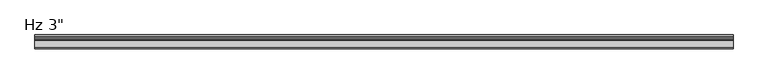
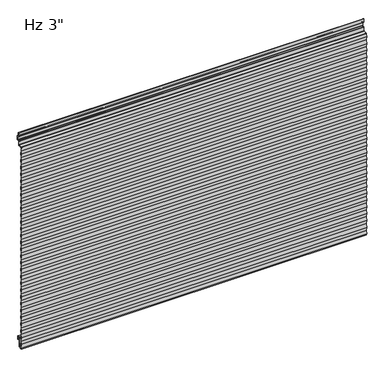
"""IFC4 building model written with IfcOpenShell, lengths in millimetres: plate geometry."""

from ifc_helpers import new_model, si_unit, point, frame, origin, place, context, project, spatial, polyline, circle_curve, ellipse_curve, trimmed, source, transform, mapped, element, save
from ifc_brep_helpers import plane_surface, cylinder_surface, revolved_surface, extruded_surface, advanced_brep


def plate_d8378e91(model_context):
    return source(origin(), model_context, "Body", "AdvancedBrep", [
        advanced_brep(
        [(-730.0, -50.8, -23.2314549), (-730.0, -52.3875, -23.2314549), (-730.0, -52.3875, -11.9205174), (-730.0, -60.325, -11.9205174), (-730.0, -60.325, -50.1038221), (-730.0, -62.581625, -52.4818086), (-730.0, -76.7543553, -53.22457), (-730.0, -77.4509395, -48.8709186), (-730.0, -75.0125395, -33.6309186), (-730.0, -77.4509395, -18.3909186), (-730.0, -75.0125395, -3.1509186), (-730.0, -77.4509395, 12.0890814), (-730.0, -75.0125395, 27.3290814), (-730.0, -77.4509395, 42.5690814), (-730.0, -75.0125395, 57.8090814), (-730.0, -77.4509395, 73.0490814), (-730.0, -75.0125395, 88.2890814), (-730.0, -77.4509395, 103.5290814), (-730.0, -75.0125395, 118.7690814), (-730.0, -77.4509395, 134.0090814), (-730.0, -75.0125395, 149.2490814), (-730.0, -77.4509395, 164.4890814), (-730.0, -75.0125395, 179.7290814), (-730.0, -77.4509395, 194.9690814), (-730.0, -75.0125395, 210.2090814), (-730.0, -77.4509395, 225.4490814), (-730.0, -75.0125395, 240.6890814), (-730.0, -77.4509395, 255.9290814), (-730.0, -75.0125395, 271.1690814), (-730.0, -77.4509395, 286.4090814), (-730.0, -75.0125395, 301.6490814), (-730.0, -77.4509395, 316.8890814), (-730.0, -75.0125395, 332.1290814), (-730.0, -77.4509395, 347.3690814), (-730.0, -75.0125395, 362.6090814), (-730.0, -77.4509395, 377.8490814), (-730.0, -75.0125395, 393.0890814), (-730.0, -77.4509395, 408.3290814), (-730.0, -75.0125395, 423.5690814), (-730.0, -77.4509395, 438.8090814), (-730.0, -75.0125395, 454.0490814), (-730.0, -77.4509395, 469.2890814), (-730.0, -75.0125395, 484.5290814), (-730.0, -77.4509395, 499.7690814), (-730.0, -75.0125395, 515.0090814), (-730.0, -77.4509395, 530.2490814), (-730.0, -75.0125395, 545.4890814), (-730.0, -77.4509395, 560.7290814), (-730.0, -75.0125395, 575.9690814), (-730.0, -77.4509395, 591.2090814), (-730.0, -75.0125395, 606.4490814), (-730.0, -77.4509395, 621.6890814), (-730.0, -75.0125395, 636.9290814), (-730.0, -77.4509395, 652.1690814), (-730.0, -75.0125395, 667.4090814), (-730.0, -77.4509395, 682.6490814), (-730.0, -75.0125395, 697.8890814), (-730.0, -77.4509395, 713.1290814), (-730.0, -75.0125395, 728.3690814), (-730.0, -77.4509395, 743.6090814), (-730.0, -75.0125395, 758.8490814), (-730.0, -77.4509395, 774.0890814), (-730.0, -75.0125395, 789.3290814), (-730.0, -77.4509395, 804.5690814), (-730.0, -75.0125395, 819.8090814), (-730.0, -77.4185287, 834.8465139), (-730.0, -75.4278537, 847.2882328), (-730.0, -73.943375, 848.6227473), (-730.0, -60.2419167, 849.3408103), (-730.0, -58.7375, 850.9261347), (-730.0, -58.7375, 865.0824411), (-730.0, -56.480875, 867.4604276), (-730.0, -50.7169167, 867.7625039), (-730.0, -49.2125, 869.3478283), (-730.0, -49.2125, 884.2232326), (-730.0, -50.8, 885.8107326), (-730.0, -54.9671875, 885.8107326), (-730.0, -57.3484375, 888.1919826), (-730.0, -57.3484375, 902.6836032), (-730.0, -55.5546875, 902.6836032), (-730.0, -55.5546875, 892.9544826), (-730.0, -56.3484375, 892.9544826), (-730.0, -56.3484375, 888.1919826), (-730.0, -54.9671875, 886.8107326), (-730.0, -50.8, 886.8107326), (-730.0, -48.2125, 884.2232326), (-730.0, -48.2125, 869.3478283), (-730.0, -50.6645807, 866.7638744), (-730.0, -56.428539, 866.4617981), (-730.0, -57.7375, 865.0824411), (-730.0, -57.7375, 850.9261347), (-730.0, -60.1895807, 848.3421807), (-730.0, -73.891039, 847.6241177), (-730.0, -74.440413, 847.1302423), (-730.0, -76.4058096, 834.8465139), (-730.0, -73.9998204, 819.8090814), (-730.0, -76.4382204, 804.5690814), (-730.0, -73.9998204, 789.3290814), (-730.0, -76.4382204, 774.0890814), (-730.0, -73.9998204, 758.8490814), (-730.0, -76.4382204, 743.6090814), (-730.0, -73.9998204, 728.3690814), (-730.0, -76.4382204, 713.1290814), (-730.0, -73.9998204, 697.8890814), (-730.0, -76.4382204, 682.6490814), (-730.0, -73.9998204, 667.4090814), (-730.0, -76.4382204, 652.1690814), (-730.0, -73.9998204, 636.9290814), (-730.0, -76.4382204, 621.6890814), (-730.0, -73.9998204, 606.4490814), (-730.0, -76.4382204, 591.2090814), (-730.0, -73.9998204, 575.9690814), (-730.0, -76.4382204, 560.7290814), (-730.0, -73.9998204, 545.4890814), (-730.0, -76.4382204, 530.2490814), (-730.0, -73.9998204, 515.0090814), (-730.0, -76.4382204, 499.7690814), (-730.0, -73.9998204, 484.5290814), (-730.0, -76.4382204, 469.2890814), (-730.0, -73.9998204, 454.0490814), (-730.0, -76.4382204, 438.8090814), (-730.0, -73.9998204, 423.5690814), (-730.0, -76.4382204, 408.3290814), (-730.0, -73.9998204, 393.0890814), (-730.0, -76.4382204, 377.8490814), (-730.0, -73.9998204, 362.6090814), (-730.0, -76.4382204, 347.3690814), (-730.0, -73.9998204, 332.1290814), (-730.0, -76.4382204, 316.8890814), (-730.0, -73.9998204, 301.6490814), (-730.0, -76.4382204, 286.4090814), (-730.0, -73.9998204, 271.1690814), (-730.0, -76.4382204, 255.9290814), (-730.0, -73.9998204, 240.6890814), (-730.0, -76.4382204, 225.4490814), (-730.0, -73.9998204, 210.2090814), (-730.0, -76.4382204, 194.9690814), (-730.0, -73.9998204, 179.7290814), (-730.0, -76.4382204, 164.4890814), (-730.0, -73.9998204, 149.2490814), (-730.0, -76.4382204, 134.0090814), (-730.0, -73.9998204, 118.7690814), (-730.0, -76.4382204, 103.5290814), (-730.0, -73.9998204, 88.2890814), (-730.0, -76.4382204, 73.0490814), (-730.0, -73.9998204, 57.8090814), (-730.0, -76.4382204, 42.5690814), (-730.0, -73.9998204, 27.3290814), (-730.0, -76.4382204, 12.0890814), (-730.0, -73.9998204, -3.1509186), (-730.0, -76.4382204, -18.3909186), (-730.0, -73.9998204, -33.6309186), (-730.0, -76.4382204, -48.8709186), (-730.0, -75.9089447, -52.1788915), (-730.0, -62.633961, -51.4831791), (-730.0, -61.325, -50.1038221), (-730.0, -61.325, -11.9205174), (-730.0, -51.3875, -11.9205174), (-730.0, -51.59375, -13.5080174), (-730.0, -50.8, -13.5080174), (730.0, -50.8, -23.2314549), (730.0, -50.8, -13.5080174), (730.0, -51.59375, -13.5080174), (730.0, -51.3875, -11.9205174), (730.0, -61.325, -11.9205174), (730.0, -61.325, -50.1038221), (730.0, -62.633961, -51.4831791), (730.0, -75.9089447, -52.1788915), (730.0, -76.4382204, -48.8709186), (730.0, -73.9998204, -33.6309186), (730.0, -76.4382204, -18.3909186), (730.0, -73.9998204, -3.1509186), (730.0, -76.4382204, 12.0890814), (730.0, -73.9998204, 27.3290814), (730.0, -76.4382204, 42.5690814), (730.0, -73.9998204, 57.8090814), (730.0, -76.4382204, 73.0490814), (730.0, -73.9998204, 88.2890814), (730.0, -76.4382204, 103.5290814), (730.0, -73.9998204, 118.7690814), (730.0, -76.4382204, 134.0090814), (730.0, -73.9998204, 149.2490814), (730.0, -76.4382204, 164.4890814), (730.0, -73.9998204, 179.7290814), (730.0, -76.4382204, 194.9690814), (730.0, -73.9998204, 210.2090814), (730.0, -76.4382204, 225.4490814), (730.0, -73.9998204, 240.6890814), (730.0, -76.4382204, 255.9290814), (730.0, -73.9998204, 271.1690814), (730.0, -76.4382204, 286.4090814), (730.0, -73.9998204, 301.6490814), (730.0, -76.4382204, 316.8890814), (730.0, -73.9998204, 332.1290814), (730.0, -76.4382204, 347.3690814), (730.0, -73.9998204, 362.6090814), (730.0, -76.4382204, 377.8490814), (730.0, -73.9998204, 393.0890814), (730.0, -76.4382204, 408.3290814), (730.0, -73.9998204, 423.5690814), (730.0, -76.4382204, 438.8090814), (730.0, -73.9998204, 454.0490814), (730.0, -76.4382204, 469.2890814), (730.0, -73.9998204, 484.5290814), (730.0, -76.4382204, 499.7690814), (730.0, -73.9998204, 515.0090814), (730.0, -76.4382204, 530.2490814), (730.0, -73.9998204, 545.4890814), (730.0, -76.4382204, 560.7290814), (730.0, -73.9998204, 575.9690814), (730.0, -76.4382204, 591.2090814), (730.0, -73.9998204, 606.4490814), (730.0, -76.4382204, 621.6890814), (730.0, -73.9998204, 636.9290814), (730.0, -76.4382204, 652.1690814), (730.0, -73.9998204, 667.4090814), (730.0, -76.4382204, 682.6490814), (730.0, -73.9998204, 697.8890814), (730.0, -76.4382204, 713.1290814), (730.0, -73.9998204, 728.3690814), (730.0, -76.4382204, 743.6090814), (730.0, -73.9998204, 758.8490814), (730.0, -76.4382204, 774.0890814), (730.0, -73.9998204, 789.3290814), (730.0, -76.4382204, 804.5690814), (730.0, -73.9998204, 819.8090814), (730.0, -76.4058096, 834.8465139), (730.0, -74.440413, 847.1302423), (730.0, -73.891039, 847.6241177), (730.0, -60.1895807, 848.3421807), (730.0, -57.7375, 850.9261347), (730.0, -57.7375, 865.0824411), (730.0, -56.428539, 866.4617981), (730.0, -50.6645807, 866.7638744), (730.0, -48.2125, 869.3478283), (730.0, -48.2125, 884.2232326), (730.0, -50.8, 886.8107326), (730.0, -54.9671875, 886.8107326), (730.0, -56.3484375, 888.1919826), (730.0, -56.3484375, 892.9544826), (730.0, -55.5546875, 892.9544826), (730.0, -55.5546875, 902.6836032), (730.0, -57.3484375, 902.6836032), (730.0, -57.3484375, 888.1919826), (730.0, -54.9671875, 885.8107326), (730.0, -50.8, 885.8107326), (730.0, -49.2125, 884.2232326), (730.0, -49.2125, 869.3478283), (730.0, -50.7169167, 867.7625039), (730.0, -56.480875, 867.4604276), (730.0, -58.7375, 865.0824411), (730.0, -58.7375, 850.9261347), (730.0, -60.2419167, 849.3408103), (730.0, -73.943375, 848.6227473), (730.0, -75.4278537, 847.2882328), (730.0, -77.4185287, 834.8465139), (730.0, -75.0125395, 819.8090814), (730.0, -77.4509395, 804.5690814), (730.0, -75.0125395, 789.3290814), (730.0, -77.4509395, 774.0890814), (730.0, -75.0125395, 758.8490814), (730.0, -77.4509395, 743.6090814), (730.0, -75.0125395, 728.3690814), (730.0, -77.4509395, 713.1290814), (730.0, -75.0125395, 697.8890814), (730.0, -77.4509395, 682.6490814), (730.0, -75.0125395, 667.4090814), (730.0, -77.4509395, 652.1690814), (730.0, -75.0125395, 636.9290814), (730.0, -77.4509395, 621.6890814), (730.0, -75.0125395, 606.4490814), (730.0, -77.4509395, 591.2090814), (730.0, -75.0125395, 575.9690814), (730.0, -77.4509395, 560.7290814), (730.0, -75.0125395, 545.4890814), (730.0, -77.4509395, 530.2490814), (730.0, -75.0125395, 515.0090814), (730.0, -77.4509395, 499.7690814), (730.0, -75.0125395, 484.5290814), (730.0, -77.4509395, 469.2890814), (730.0, -75.0125395, 454.0490814), (730.0, -77.4509395, 438.8090814), (730.0, -75.0125395, 423.5690814), (730.0, -77.4509395, 408.3290814), (730.0, -75.0125395, 393.0890814), (730.0, -77.4509395, 377.8490814), (730.0, -75.0125395, 362.6090814), (730.0, -77.4509395, 347.3690814), (730.0, -75.0125395, 332.1290814), (730.0, -77.4509395, 316.8890814), (730.0, -75.0125395, 301.6490814), (730.0, -77.4509395, 286.4090814), (730.0, -75.0125395, 271.1690814), (730.0, -77.4509395, 255.9290814), (730.0, -75.0125395, 240.6890814), (730.0, -77.4509395, 225.4490814), (730.0, -75.0125395, 210.2090814), (730.0, -77.4509395, 194.9690814), (730.0, -75.0125395, 179.7290814), (730.0, -77.4509395, 164.4890814), (730.0, -75.0125395, 149.2490814), (730.0, -77.4509395, 134.0090814), (730.0, -75.0125395, 118.7690814), (730.0, -77.4509395, 103.5290814), (730.0, -75.0125395, 88.2890814), (730.0, -77.4509395, 73.0490814), (730.0, -75.0125395, 57.8090814), (730.0, -77.4509395, 42.5690814), (730.0, -75.0125395, 27.3290814), (730.0, -77.4509395, 12.0890814), (730.0, -75.0125395, -3.1509186), (730.0, -77.4509395, -18.3909186), (730.0, -75.0125395, -33.6309186), (730.0, -77.4509395, -48.8709186), (730.0, -76.7543553, -53.22457), (730.0, -62.581625, -52.4818086), (730.0, -60.325, -50.1038221), (730.0, -60.325, -11.9205174), (730.0, -52.3875, -11.9205174), (730.0, -52.3875, -23.2314549)],
        [
            (0, 1, circle_curve(frame((-730.0, -51.59375, -23.2314549), z_axis=(-1.0, 0.0, 0.0), x_axis=(0.0, 0.0, 1.0)), 0.79375)),
            (1, 2),
            (2, 3, circle_curve(frame((-730.0, -56.35625, -11.9205174), z_axis=(1.0, 0.0, 0.0), x_axis=(0.0, 0.0, 1.0)), 3.96875)),
            (3, 4),
            (4, 5, circle_curve(frame((-730.0, -62.70625, -50.1038221), z_axis=(-1.0, 0.0, 0.0), x_axis=(0.0, 0.0, 1.0)), 2.38125)),
            (5, 6),
            (6, 7),
            (7, 8),
            (8, 9),
            (9, 10),
            (10, 11),
            (11, 12),
            (12, 13),
            (13, 14),
            (14, 15),
            (15, 16),
            (16, 17),
            (17, 18),
            (18, 19),
            (19, 20),
            (20, 21),
            (21, 22),
            (22, 23),
            (23, 24),
            (24, 25),
            (25, 26),
            (26, 27),
            (27, 28),
            (28, 29),
            (29, 30),
            (30, 31),
            (31, 32),
            (32, 33),
            (33, 34),
            (34, 35),
            (35, 36),
            (36, 37),
            (37, 38),
            (38, 39),
            (39, 40),
            (40, 41),
            (41, 42),
            (42, 43),
            (43, 44),
            (44, 45),
            (45, 46),
            (46, 47),
            (47, 48),
            (48, 49),
            (49, 50),
            (50, 51),
            (51, 52),
            (52, 53),
            (53, 54),
            (54, 55),
            (55, 56),
            (56, 57),
            (57, 58),
            (58, 59),
            (59, 60),
            (60, 61),
            (61, 62),
            (62, 63),
            (63, 64),
            (64, 65),
            (65, 66),
            (66, 67, circle_curve(frame((-730.0, -73.8602917, 847.0374229), z_axis=(-1.0, 0.0, 0.0), x_axis=(0.0, 0.0, 1.0)), 1.5875)),
            (67, 68),
            (68, 69, circle_curve(frame((-730.0, -60.325, 850.9261347), z_axis=(1.0, 0.0, 0.0), x_axis=(0.0, 0.0, 1.0)), 1.5875)),
            (69, 70),
            (70, 71, circle_curve(frame((-730.0, -56.35625, 865.0824411), z_axis=(-1.0, 0.0, 0.0), x_axis=(0.0, 0.0, 1.0)), 2.38125)),
            (71, 72),
            (72, 73, circle_curve(frame((-730.0, -50.8, 869.3478283), z_axis=(1.0, 0.0, 0.0), x_axis=(0.0, 0.0, 1.0)), 1.5875)),
            (73, 74),
            (74, 75, circle_curve(frame((-730.0, -50.8, 884.2232326), z_axis=(1.0, 0.0, 0.0), x_axis=(0.0, 0.0, 1.0)), 1.5875)),
            (75, 76),
            (76, 77, circle_curve(frame((-730.0, -54.9671875, 888.1919826), z_axis=(-1.0, 0.0, 0.0), x_axis=(0.0, 0.0, 1.0)), 2.38125)),
            (77, 78),
            (78, 79, ellipse_curve(frame((-730.0, -56.4515625, 902.6836032), z_axis=(-1.0, 0.0, 0.0), x_axis=(0.0, 1.0, 0.0)), 0.896875, 0.7852275)),
            (79, 80),
            (80, 81),
            (81, 82),
            (82, 83, circle_curve(frame((-730.0, -54.9671875, 888.1919826), z_axis=(1.0, 0.0, 0.0), x_axis=(0.0, 0.0, 1.0)), 1.38125)),
            (83, 84),
            (84, 85, circle_curve(frame((-730.0, -50.8, 884.2232326), z_axis=(-1.0, 0.0, 0.0), x_axis=(0.0, 0.0, 1.0)), 2.5875)),
            (85, 86),
            (86, 87, circle_curve(frame((-730.0, -50.8, 869.3478283), z_axis=(-1.0, 0.0, 0.0), x_axis=(0.0, 0.0, 1.0)), 2.5875)),
            (87, 88),
            (88, 89, circle_curve(frame((-730.0, -56.35625, 865.0824411), z_axis=(1.0, 0.0, 0.0), x_axis=(0.0, 0.0, 1.0)), 1.38125)),
            (89, 90),
            (90, 91, circle_curve(frame((-730.0, -60.325, 850.9261347), z_axis=(-1.0, 0.0, 0.0), x_axis=(0.0, 0.0, 1.0)), 2.5875)),
            (91, 92),
            (92, 93, circle_curve(frame((-730.0, -73.8602917, 847.0374229), z_axis=(1.0, 0.0, 0.0), x_axis=(0.0, 0.0, 1.0)), 0.5875)),
            (93, 94),
            (94, 95),
            (95, 96),
            (96, 97),
            (97, 98),
            (98, 99),
            (99, 100),
            (100, 101),
            (101, 102),
            (102, 103),
            (103, 104),
            (104, 105),
            (105, 106),
            (106, 107),
            (107, 108),
            (108, 109),
            (109, 110),
            (110, 111),
            (111, 112),
            (112, 113),
            (113, 114),
            (114, 115),
            (115, 116),
            (116, 117),
            (117, 118),
            (118, 119),
            (119, 120),
            (120, 121),
            (121, 122),
            (122, 123),
            (123, 124),
            (124, 125),
            (125, 126),
            (126, 127),
            (127, 128),
            (128, 129),
            (129, 130),
            (130, 131),
            (131, 132),
            (132, 133),
            (133, 134),
            (134, 135),
            (135, 136),
            (136, 137),
            (137, 138),
            (138, 139),
            (139, 140),
            (140, 141),
            (141, 142),
            (142, 143),
            (143, 144),
            (144, 145),
            (145, 146),
            (146, 147),
            (147, 148),
            (148, 149),
            (149, 150),
            (150, 151),
            (151, 152),
            (152, 153),
            (153, 154),
            (154, 155, circle_curve(frame((-730.0, -62.70625, -50.1038221), z_axis=(1.0, 0.0, 0.0), x_axis=(0.0, 0.0, 1.0)), 1.38125)),
            (155, 156),
            (156, 157, circle_curve(frame((-730.0, -56.35625, -11.9205174), z_axis=(-1.0, 0.0, 0.0), x_axis=(0.0, 0.0, 1.0)), 4.96875)),
            (157, 158),
            (158, 159),
            (159, 0),
            (160, 161),
            (161, 162),
            (162, 163),
            (163, 164, circle_curve(frame((730.0, -56.35625, -11.9205174), z_axis=(1.0, 0.0, 0.0), x_axis=(0.0, 0.0, 1.0)), 4.96875)),
            (164, 165),
            (165, 166, circle_curve(frame((730.0, -62.70625, -50.1038221), z_axis=(-1.0, 0.0, 0.0), x_axis=(0.0, 0.0, 1.0)), 1.38125)),
            (166, 167),
            (167, 168),
            (168, 169),
            (169, 170),
            (170, 171),
            (171, 172),
            (172, 173),
            (173, 174),
            (174, 175),
            (175, 176),
            (176, 177),
            (177, 178),
            (178, 179),
            (179, 180),
            (180, 181),
            (181, 182),
            (182, 183),
            (183, 184),
            (184, 185),
            (185, 186),
            (186, 187),
            (187, 188),
            (188, 189),
            (189, 190),
            (190, 191),
            (191, 192),
            (192, 193),
            (193, 194),
            (194, 195),
            (195, 196),
            (196, 197),
            (197, 198),
            (198, 199),
            (199, 200),
            (200, 201),
            (201, 202),
            (202, 203),
            (203, 204),
            (204, 205),
            (205, 206),
            (206, 207),
            (207, 208),
            (208, 209),
            (209, 210),
            (210, 211),
            (211, 212),
            (212, 213),
            (213, 214),
            (214, 215),
            (215, 216),
            (216, 217),
            (217, 218),
            (218, 219),
            (219, 220),
            (220, 221),
            (221, 222),
            (222, 223),
            (223, 224),
            (224, 225),
            (225, 226),
            (226, 227),
            (227, 228, circle_curve(frame((730.0, -73.8602917, 847.0374229), z_axis=(-1.0, 0.0, 0.0), x_axis=(0.0, 0.0, 1.0)), 0.5875)),
            (228, 229),
            (229, 230, circle_curve(frame((730.0, -60.325, 850.9261347), z_axis=(1.0, 0.0, 0.0), x_axis=(0.0, 0.0, 1.0)), 2.5875)),
            (230, 231),
            (231, 232, circle_curve(frame((730.0, -56.35625, 865.0824411), z_axis=(-1.0, 0.0, 0.0), x_axis=(0.0, 0.0, 1.0)), 1.38125)),
            (232, 233),
            (233, 234, circle_curve(frame((730.0, -50.8, 869.3478283), z_axis=(1.0, 0.0, 0.0), x_axis=(0.0, 0.0, 1.0)), 2.5875)),
            (234, 235),
            (235, 236, circle_curve(frame((730.0, -50.8, 884.2232326), z_axis=(1.0, 0.0, 0.0), x_axis=(0.0, 0.0, 1.0)), 2.5875)),
            (236, 237),
            (237, 238, circle_curve(frame((730.0, -54.9671875, 888.1919826), z_axis=(-1.0, 0.0, 0.0), x_axis=(0.0, 0.0, 1.0)), 1.38125)),
            (238, 239),
            (239, 240),
            (240, 241),
            (241, 242, ellipse_curve(frame((730.0, -56.4515625, 902.6836032), z_axis=(1.0, 0.0, 0.0), x_axis=(0.0, 1.0, 0.0)), 0.896875, 0.7852275)),
            (242, 243),
            (243, 244, circle_curve(frame((730.0, -54.9671875, 888.1919826), z_axis=(1.0, 0.0, 0.0), x_axis=(0.0, 0.0, 1.0)), 2.38125)),
            (244, 245),
            (245, 246, circle_curve(frame((730.0, -50.8, 884.2232326), z_axis=(-1.0, 0.0, 0.0), x_axis=(0.0, 0.0, 1.0)), 1.5875)),
            (246, 247),
            (247, 248, circle_curve(frame((730.0, -50.8, 869.3478283), z_axis=(-1.0, 0.0, 0.0), x_axis=(0.0, 0.0, 1.0)), 1.5875)),
            (248, 249),
            (249, 250, circle_curve(frame((730.0, -56.35625, 865.0824411), z_axis=(1.0, 0.0, 0.0), x_axis=(0.0, 0.0, 1.0)), 2.38125)),
            (250, 251),
            (251, 252, circle_curve(frame((730.0, -60.325, 850.9261347), z_axis=(-1.0, 0.0, 0.0), x_axis=(0.0, 0.0, 1.0)), 1.5875)),
            (252, 253),
            (253, 254, circle_curve(frame((730.0, -73.8602917, 847.0374229), z_axis=(1.0, 0.0, 0.0), x_axis=(0.0, 0.0, 1.0)), 1.5875)),
            (254, 255),
            (255, 256),
            (256, 257),
            (257, 258),
            (258, 259),
            (259, 260),
            (260, 261),
            (261, 262),
            (262, 263),
            (263, 264),
            (264, 265),
            (265, 266),
            (266, 267),
            (267, 268),
            (268, 269),
            (269, 270),
            (270, 271),
            (271, 272),
            (272, 273),
            (273, 274),
            (274, 275),
            (275, 276),
            (276, 277),
            (277, 278),
            (278, 279),
            (279, 280),
            (280, 281),
            (281, 282),
            (282, 283),
            (283, 284),
            (284, 285),
            (285, 286),
            (286, 287),
            (287, 288),
            (288, 289),
            (289, 290),
            (290, 291),
            (291, 292),
            (292, 293),
            (293, 294),
            (294, 295),
            (295, 296),
            (296, 297),
            (297, 298),
            (298, 299),
            (299, 300),
            (300, 301),
            (301, 302),
            (302, 303),
            (303, 304),
            (304, 305),
            (305, 306),
            (306, 307),
            (307, 308),
            (308, 309),
            (309, 310),
            (310, 311),
            (311, 312),
            (312, 313),
            (313, 314),
            (314, 315),
            (315, 316, circle_curve(frame((730.0, -62.70625, -50.1038221), z_axis=(1.0, 0.0, 0.0), x_axis=(0.0, 0.0, 1.0)), 2.38125)),
            (316, 317),
            (317, 318, circle_curve(frame((730.0, -56.35625, -11.9205174), z_axis=(-1.0, 0.0, 0.0), x_axis=(0.0, 0.0, 1.0)), 3.96875)),
            (318, 319),
            (319, 160, circle_curve(frame((730.0, -51.59375, -23.2314549), z_axis=(1.0, 0.0, 0.0), x_axis=(0.0, 0.0, 1.0)), 0.79375)),
            (108, 212),
            (211, 109),
            (210, 110),
            (209, 111),
            (208, 112),
            (207, 113),
            (206, 114),
            (205, 115),
            (204, 116),
            (203, 117),
            (202, 118),
            (201, 119),
            (200, 120),
            (199, 121),
            (153, 167),
            (166, 154),
            (165, 155),
            (164, 156),
            (163, 157),
            (158, 162),
            (161, 159),
            (80, 240),
            (239, 81),
            (79, 241),
            (78, 242),
            (67, 253),
            (252, 68),
            (91, 229),
            (228, 92),
            (64, 256),
            (255, 65),
            (94, 226),
            (225, 95),
            (224, 96),
            (223, 97),
            (222, 98),
            (221, 99),
            (220, 100),
            (219, 101),
            (218, 102),
            (217, 103),
            (216, 104),
            (215, 105),
            (214, 106),
            (213, 107),
            (24, 296),
            (295, 25),
            (294, 26),
            (293, 27),
            (292, 28),
            (291, 29),
            (290, 30),
            (289, 31),
            (288, 32),
            (287, 33),
            (286, 34),
            (285, 35),
            (284, 36),
            (137, 183),
            (182, 138),
            (181, 139),
            (180, 140),
            (179, 141),
            (178, 142),
            (58, 262),
            (261, 59),
            (260, 60),
            (259, 61),
            (258, 62),
            (257, 63),
            (254, 66),
            (227, 93),
            (123, 197),
            (196, 124),
            (195, 125),
            (194, 126),
            (193, 127),
            (192, 128),
            (191, 129),
            (190, 130),
            (189, 131),
            (188, 132),
            (187, 133),
            (186, 134),
            (185, 135),
            (184, 136),
            (22, 298),
            (297, 23),
            (15, 305),
            (304, 16),
            (13, 307),
            (306, 14),
            (146, 174),
            (173, 147),
            (144, 176),
            (175, 145),
            (12, 308),
            (21, 299),
            (19, 301),
            (300, 20),
            (143, 177),
            (17, 303),
            (302, 18),
            (56, 264),
            (263, 57),
            (54, 266),
            (265, 55),
            (52, 268),
            (267, 53),
            (50, 270),
            (269, 51),
            (48, 272),
            (271, 49),
            (46, 274),
            (273, 47),
            (44, 276),
            (275, 45),
            (42, 278),
            (277, 43),
            (40, 280),
            (279, 41),
            (38, 282),
            (281, 39),
            (283, 37),
            (10, 310),
            (309, 11),
            (8, 312),
            (311, 9),
            (6, 314),
            (313, 7),
            (151, 169),
            (168, 152),
            (149, 171),
            (170, 150),
            (172, 148),
            (198, 122),
            (90, 230),
            (88, 232),
            (231, 89),
            (86, 234),
            (233, 87),
            (82, 238),
            (237, 83),
            (84, 236),
            (235, 85),
            (77, 243),
            (75, 245),
            (244, 76),
            (73, 247),
            (246, 74),
            (71, 249),
            (248, 72),
            (69, 251),
            (250, 70),
            (5, 315),
            (3, 317),
            (316, 4),
            (1, 319),
            (318, 2),
            (160, 0),
        ],
        [
            plane_surface(frame((-730.0, -76.2, 457.2), z_axis=(-1.0, 0.0, 0.0), x_axis=(0.0, -1.0, 0.0))),
            plane_surface(frame((730.0, -76.2, 457.2), z_axis=(1.0, 0.0, 0.0), x_axis=(0.0, -1.0, 0.0))),
            plane_surface(frame((-730.0, -73.9998204, 606.4490814), z_axis=(0.0, 0.9874406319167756, 0.15799050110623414), x_axis=(1.0, 0.0, 0.0))),
            plane_surface(frame((-730.0, -76.4382204, 591.2090814), z_axis=(0.0, 0.987440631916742, -0.15799050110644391), x_axis=(1.0, 0.0, 0.0))),
            plane_surface(frame((-730.0, -73.9998204, 575.9690814), z_axis=(0.0, 0.987440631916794, 0.1579905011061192), x_axis=(1.0, 0.0, 0.0))),
            plane_surface(frame((-730.0, -76.4382204, 560.7290814), z_axis=(0.0, 0.987440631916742, -0.15799050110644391), x_axis=(1.0, 0.0, 0.0))),
            plane_surface(frame((-730.0, -73.9998204, 545.4890814), z_axis=(0.0, 0.9874406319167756, 0.15799050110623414), x_axis=(1.0, 0.0, 0.0))),
            plane_surface(frame((-730.0, -76.4382204, 530.2490814), z_axis=(0.0, 0.9874406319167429, -0.15799050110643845), x_axis=(1.0, 0.0, 0.0))),
            plane_surface(frame((-730.0, -73.9998204, 515.0090814), z_axis=(0.0, 0.9874406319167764, 0.15799050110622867), x_axis=(1.0, 0.0, 0.0))),
            plane_surface(frame((-730.0, -76.4382204, 499.7690814), z_axis=(0.0, 0.9874406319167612, -0.1579905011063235), x_axis=(1.0, 0.0, 0.0))),
            plane_surface(frame((-730.0, -73.9998204, 484.5290814), z_axis=(0.0, 0.9874406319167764, 0.15799050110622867), x_axis=(1.0, 0.0, 0.0))),
            plane_surface(frame((-730.0, -76.4382204, 469.2890814), z_axis=(0.0, 0.987440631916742, -0.15799050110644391), x_axis=(1.0, 0.0, 0.0))),
            plane_surface(frame((-730.0, -73.9998204, 454.0490814), z_axis=(0.0, 0.9874406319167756, 0.15799050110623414), x_axis=(1.0, 0.0, 0.0))),
            plane_surface(frame((-730.0, -76.4382204, 438.8090814), z_axis=(0.0, 0.987440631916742, -0.15799050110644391), x_axis=(1.0, 0.0, 0.0))),
            plane_surface(frame((-730.0, -73.9998204, 423.5690814), z_axis=(0.0, 0.987440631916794, 0.1579905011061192), x_axis=(1.0, 0.0, 0.0))),
            plane_surface(frame((-730.0, -62.633961, -51.4831791), z_axis=(0.0, -0.052335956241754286, 0.9986295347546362), x_axis=(1.0, 0.0, 0.0))),
            revolved_surface(polyline([(730.0, -62.70625, -48.7225721), (-730.0, -62.70625, -48.7225721)]), (-730.0, -62.70625, -50.1038221), (1.0, 0.0, 0.0)),
            plane_surface(frame((-730.0, -61.325, -11.9205174), z_axis=(0.0, -1.0, 0.0), x_axis=(1.0, 0.0, 0.0))),
            cylinder_surface(frame((-730.0, -56.35625, -11.9205174), z_axis=(-1.0, 0.0, 0.0), x_axis=(0.0, 0.0, 1.0)), 4.96875),
            plane_surface(frame((-730.0, -50.8, -13.5080174), z_axis=(0.0, 0.0, 1.0), x_axis=(1.0, 0.0, 0.0))),
            plane_surface(frame((-730.0, -51.59375, -13.5080174), z_axis=(0.0, 0.9916655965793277, -0.12883844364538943), x_axis=(1.0, 0.0, 0.0))),
            plane_surface(frame((-730.0, -56.3484375, 892.9544826), z_axis=(0.0, 0.0, -1.0), x_axis=(1.0, 0.0, 0.0))),
            plane_surface(frame((-730.0, -55.5546875, 892.9544826), z_axis=(0.0, 1.0, 0.0), x_axis=(1.0, 0.0, 0.0))),
            extruded_surface(trimmed(ellipse_curve(frame((-730.0, -56.4515625, 902.6836032), z_axis=(1.0, 0.0, 0.0), x_axis=(0.0, 1.0, 0.0)), 0.896875, 0.7852275), [point((-730.0, -55.5546875, 902.6836032))], [point((-730.0, -57.3484375, 902.6836032))], True, "CARTESIAN"), (1460.0, 0.0, 0.0), 1460.0),
            plane_surface(frame((-730.0, -60.2419167, 849.3408103), z_axis=(0.0, -0.052335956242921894, 0.998629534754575), x_axis=(1.0, 0.0, 0.0))),
            plane_surface(frame((-730.0, -73.891039, 847.6241177), z_axis=(0.0, 0.05233595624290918, -0.9986295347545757), x_axis=(1.0, 0.0, 0.0))),
            plane_surface(frame((-730.0, -77.4185287, 834.8465139), z_axis=(0.0, -0.9874406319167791, -0.15799050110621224), x_axis=(1.0, 0.0, 0.0))),
            plane_surface(frame((-730.0, -73.9998204, 819.8090814), z_axis=(0.0, 0.9874406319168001, 0.15799050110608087), x_axis=(1.0, 0.0, 0.0))),
            plane_surface(frame((-730.0, -76.4382204, 804.5690814), z_axis=(0.0, 0.9874406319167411, -0.15799050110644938), x_axis=(1.0, 0.0, 0.0))),
            plane_surface(frame((-730.0, -73.9998204, 789.3290814), z_axis=(0.0, 0.987440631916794, 0.1579905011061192), x_axis=(1.0, 0.0, 0.0))),
            plane_surface(frame((-730.0, -76.4382204, 774.0890814), z_axis=(0.0, 0.987440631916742, -0.15799050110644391), x_axis=(1.0, 0.0, 0.0))),
            plane_surface(frame((-730.0, -73.9998204, 758.8490814), z_axis=(0.0, 0.987440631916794, 0.1579905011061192), x_axis=(1.0, 0.0, 0.0))),
            plane_surface(frame((-730.0, -76.4382204, 743.6090814), z_axis=(0.0, 0.987440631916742, -0.15799050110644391), x_axis=(1.0, 0.0, 0.0))),
            plane_surface(frame((-730.0, -73.9998204, 728.3690814), z_axis=(0.0, 0.987440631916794, 0.1579905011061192), x_axis=(1.0, 0.0, 0.0))),
            plane_surface(frame((-730.0, -76.4382204, 713.1290814), z_axis=(0.0, 0.987440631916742, -0.15799050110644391), x_axis=(1.0, 0.0, 0.0))),
            plane_surface(frame((-730.0, -73.9998204, 697.8890814), z_axis=(0.0, 0.9874406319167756, 0.15799050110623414), x_axis=(1.0, 0.0, 0.0))),
            plane_surface(frame((-730.0, -76.4382204, 682.6490814), z_axis=(0.0, 0.9874406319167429, -0.15799050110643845), x_axis=(1.0, 0.0, 0.0))),
            plane_surface(frame((-730.0, -73.9998204, 667.4090814), z_axis=(0.0, 0.9874406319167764, 0.15799050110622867), x_axis=(1.0, 0.0, 0.0))),
            plane_surface(frame((-730.0, -76.4382204, 652.1690814), z_axis=(0.0, 0.9874406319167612, -0.1579905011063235), x_axis=(1.0, 0.0, 0.0))),
            plane_surface(frame((-730.0, -73.9998204, 636.9290814), z_axis=(0.0, 0.9874406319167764, 0.15799050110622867), x_axis=(1.0, 0.0, 0.0))),
            plane_surface(frame((-730.0, -76.4382204, 621.6890814), z_axis=(0.0, 0.987440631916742, -0.15799050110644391), x_axis=(1.0, 0.0, 0.0))),
            plane_surface(frame((-730.0, -77.4509395, 225.4490814), z_axis=(0.0, -0.9874406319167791, -0.15799050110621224), x_axis=(1.0, 0.0, 0.0))),
            plane_surface(frame((-730.0, -75.0125395, 240.6890814), z_axis=(0.0, -0.9874406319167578, 0.15799050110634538), x_axis=(1.0, 0.0, 0.0))),
            plane_surface(frame((-730.0, -77.4509395, 255.9290814), z_axis=(0.0, -0.9874406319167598, -0.15799050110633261), x_axis=(1.0, 0.0, 0.0))),
            plane_surface(frame((-730.0, -75.0125395, 271.1690814), z_axis=(0.0, -0.9874406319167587, 0.15799050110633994), x_axis=(1.0, 0.0, 0.0))),
            plane_surface(frame((-730.0, -77.4509395, 286.4090814), z_axis=(0.0, -0.9874406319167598, -0.15799050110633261), x_axis=(1.0, 0.0, 0.0))),
            plane_surface(frame((-730.0, -75.0125395, 301.6490814), z_axis=(0.0, -0.9874406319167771, 0.157990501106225), x_axis=(1.0, 0.0, 0.0))),
            plane_surface(frame((-730.0, -77.4509395, 316.8890814), z_axis=(0.0, -0.9874406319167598, -0.15799050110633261), x_axis=(1.0, 0.0, 0.0))),
            plane_surface(frame((-730.0, -75.0125395, 332.1290814), z_axis=(0.0, -0.9874406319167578, 0.15799050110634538), x_axis=(1.0, 0.0, 0.0))),
            plane_surface(frame((-730.0, -77.4509395, 347.3690814), z_axis=(0.0, -0.9874406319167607, -0.15799050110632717), x_axis=(1.0, 0.0, 0.0))),
            plane_surface(frame((-730.0, -75.0125395, 362.6090814), z_axis=(0.0, -0.9874406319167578, 0.15799050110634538), x_axis=(1.0, 0.0, 0.0))),
            plane_surface(frame((-730.0, -77.4509395, 377.8490814), z_axis=(0.0, -0.9874406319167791, -0.15799050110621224), x_axis=(1.0, 0.0, 0.0))),
            plane_surface(frame((-730.0, -75.0125395, 393.0890814), z_axis=(0.0, -0.9874406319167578, 0.15799050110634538), x_axis=(1.0, 0.0, 0.0))),
            plane_surface(frame((-730.0, -76.4382204, 164.4890814), z_axis=(0.0, 0.987440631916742, -0.15799050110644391), x_axis=(1.0, 0.0, 0.0))),
            plane_surface(frame((-730.0, -73.9998204, 149.2490814), z_axis=(0.0, 0.9874406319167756, 0.15799050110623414), x_axis=(1.0, 0.0, 0.0))),
            plane_surface(frame((-730.0, -76.4382204, 134.0090814), z_axis=(0.0, 0.987440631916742, -0.15799050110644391), x_axis=(1.0, 0.0, 0.0))),
            plane_surface(frame((-730.0, -73.9998204, 118.7690814), z_axis=(0.0, 0.987440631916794, 0.1579905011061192), x_axis=(1.0, 0.0, 0.0))),
            plane_surface(frame((-730.0, -76.4382204, 103.5290814), z_axis=(0.0, 0.987440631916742, -0.15799050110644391), x_axis=(1.0, 0.0, 0.0))),
            plane_surface(frame((-730.0, -77.4509395, 743.6090814), z_axis=(0.0, -0.9874406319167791, -0.15799050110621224), x_axis=(1.0, 0.0, 0.0))),
            plane_surface(frame((-730.0, -75.0125395, 758.8490814), z_axis=(0.0, -0.9874406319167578, 0.15799050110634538), x_axis=(1.0, 0.0, 0.0))),
            plane_surface(frame((-730.0, -77.4509395, 774.0890814), z_axis=(0.0, -0.9874406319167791, -0.15799050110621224), x_axis=(1.0, 0.0, 0.0))),
            plane_surface(frame((-730.0, -75.0125395, 789.3290814), z_axis=(0.0, -0.9874406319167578, 0.15799050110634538), x_axis=(1.0, 0.0, 0.0))),
            plane_surface(frame((-730.0, -77.4509395, 804.5690814), z_axis=(0.0, -0.9874406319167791, -0.15799050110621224), x_axis=(1.0, 0.0, 0.0))),
            plane_surface(frame((-730.0, -75.0125395, 819.8090814), z_axis=(0.0, -0.9874406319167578, 0.15799050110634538), x_axis=(1.0, 0.0, 0.0))),
            plane_surface(frame((-730.0, -75.4278537, 847.2882328), z_axis=(0.0, -0.9874406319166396, 0.15799050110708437), x_axis=(1.0, 0.0, 0.0))),
            cylinder_surface(frame((-730.0, -73.8602917, 847.0374229), z_axis=(-1.0, 0.0, 0.0), x_axis=(0.0, 0.0, 1.0)), 1.5875),
            revolved_surface(polyline([(730.0, -73.8602917, 847.6249229), (-730.0, -73.8602917, 847.6249229)]), (-730.0, -73.8602917, 847.0374229), (1.0, 0.0, 0.0)),
            plane_surface(frame((-730.0, -76.4058096, 834.8465139), z_axis=(0.0, 0.9874406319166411, -0.15799050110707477), x_axis=(1.0, 0.0, 0.0))),
            plane_surface(frame((-730.0, -76.4382204, 377.8490814), z_axis=(0.0, 0.987440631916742, -0.15799050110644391), x_axis=(1.0, 0.0, 0.0))),
            plane_surface(frame((-730.0, -73.9998204, 362.6090814), z_axis=(0.0, 0.987440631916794, 0.1579905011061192), x_axis=(1.0, 0.0, 0.0))),
            plane_surface(frame((-730.0, -76.4382204, 347.3690814), z_axis=(0.0, 0.987440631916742, -0.15799050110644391), x_axis=(1.0, 0.0, 0.0))),
            plane_surface(frame((-730.0, -73.9998204, 332.1290814), z_axis=(0.0, 0.9874406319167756, 0.15799050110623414), x_axis=(1.0, 0.0, 0.0))),
            plane_surface(frame((-730.0, -76.4382204, 316.8890814), z_axis=(0.0, 0.9874406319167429, -0.15799050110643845), x_axis=(1.0, 0.0, 0.0))),
            plane_surface(frame((-730.0, -73.9998204, 301.6490814), z_axis=(0.0, 0.9874406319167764, 0.15799050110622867), x_axis=(1.0, 0.0, 0.0))),
            plane_surface(frame((-730.0, -76.4382204, 286.4090814), z_axis=(0.0, 0.9874406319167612, -0.1579905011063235), x_axis=(1.0, 0.0, 0.0))),
            plane_surface(frame((-730.0, -73.9998204, 271.1690814), z_axis=(0.0, 0.9874406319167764, 0.15799050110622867), x_axis=(1.0, 0.0, 0.0))),
            plane_surface(frame((-730.0, -76.4382204, 255.9290814), z_axis=(0.0, 0.987440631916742, -0.15799050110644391), x_axis=(1.0, 0.0, 0.0))),
            plane_surface(frame((-730.0, -73.9998204, 240.6890814), z_axis=(0.0, 0.9874406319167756, 0.15799050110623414), x_axis=(1.0, 0.0, 0.0))),
            plane_surface(frame((-730.0, -76.4382204, 225.4490814), z_axis=(0.0, 0.987440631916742, -0.15799050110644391), x_axis=(1.0, 0.0, 0.0))),
            plane_surface(frame((-730.0, -73.9998204, 210.2090814), z_axis=(0.0, 0.987440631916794, 0.1579905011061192), x_axis=(1.0, 0.0, 0.0))),
            plane_surface(frame((-730.0, -76.4382204, 194.9690814), z_axis=(0.0, 0.987440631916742, -0.15799050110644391), x_axis=(1.0, 0.0, 0.0))),
            plane_surface(frame((-730.0, -73.9998204, 179.7290814), z_axis=(0.0, 0.9874406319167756, 0.15799050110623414), x_axis=(1.0, 0.0, 0.0))),
            plane_surface(frame((-730.0, -77.4509395, 194.9690814), z_axis=(0.0, -0.9874406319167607, -0.15799050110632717), x_axis=(1.0, 0.0, 0.0))),
            plane_surface(frame((-730.0, -75.0125395, 210.2090814), z_axis=(0.0, -0.9874406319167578, 0.15799050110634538), x_axis=(1.0, 0.0, 0.0))),
            plane_surface(frame((-730.0, -75.0125395, 88.2890814), z_axis=(0.0, -0.9874406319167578, 0.15799050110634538), x_axis=(1.0, 0.0, 0.0))),
            plane_surface(frame((-730.0, -75.0125395, 57.8090814), z_axis=(0.0, -0.9874406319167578, 0.15799050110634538), x_axis=(1.0, 0.0, 0.0))),
            plane_surface(frame((-730.0, -77.4509395, 73.0490814), z_axis=(0.0, -0.9874406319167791, -0.15799050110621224), x_axis=(1.0, 0.0, 0.0))),
            plane_surface(frame((-730.0, -73.9998204, 27.3290814), z_axis=(0.0, 0.9874406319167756, 0.15799050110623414), x_axis=(1.0, 0.0, 0.0))),
            plane_surface(frame((-730.0, -73.9998204, 57.8090814), z_axis=(0.0, 0.987440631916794, 0.1579905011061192), x_axis=(1.0, 0.0, 0.0))),
            plane_surface(frame((-730.0, -76.4382204, 42.5690814), z_axis=(0.0, 0.987440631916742, -0.15799050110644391), x_axis=(1.0, 0.0, 0.0))),
            plane_surface(frame((-730.0, -77.4509395, 42.5690814), z_axis=(0.0, -0.9874406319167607, -0.15799050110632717), x_axis=(1.0, 0.0, 0.0))),
            plane_surface(frame((-730.0, -75.0125395, 179.7290814), z_axis=(0.0, -0.9874406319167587, 0.15799050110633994), x_axis=(1.0, 0.0, 0.0))),
            plane_surface(frame((-730.0, -75.0125395, 149.2490814), z_axis=(0.0, -0.9874406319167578, 0.15799050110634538), x_axis=(1.0, 0.0, 0.0))),
            plane_surface(frame((-730.0, -77.4509395, 164.4890814), z_axis=(0.0, -0.9874406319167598, -0.15799050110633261), x_axis=(1.0, 0.0, 0.0))),
            plane_surface(frame((-730.0, -76.4382204, 73.0490814), z_axis=(0.0, 0.987440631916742, -0.15799050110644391), x_axis=(1.0, 0.0, 0.0))),
            plane_surface(frame((-730.0, -75.0125395, 118.7690814), z_axis=(0.0, -0.9874406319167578, 0.15799050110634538), x_axis=(1.0, 0.0, 0.0))),
            plane_surface(frame((-730.0, -73.9998204, 88.2890814), z_axis=(0.0, 0.9874406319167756, 0.15799050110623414), x_axis=(1.0, 0.0, 0.0))),
            plane_surface(frame((-730.0, -77.4509395, 103.5290814), z_axis=(0.0, -0.9874406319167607, -0.15799050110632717), x_axis=(1.0, 0.0, 0.0))),
            plane_surface(frame((-730.0, -77.4509395, 134.0090814), z_axis=(0.0, -0.9874406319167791, -0.15799050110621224), x_axis=(1.0, 0.0, 0.0))),
            plane_surface(frame((-730.0, -77.4509395, 713.1290814), z_axis=(0.0, -0.9874406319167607, -0.15799050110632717), x_axis=(1.0, 0.0, 0.0))),
            plane_surface(frame((-730.0, -77.4509395, 682.6490814), z_axis=(0.0, -0.9874406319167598, -0.15799050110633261), x_axis=(1.0, 0.0, 0.0))),
            plane_surface(frame((-730.0, -75.0125395, 697.8890814), z_axis=(0.0, -0.9874406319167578, 0.15799050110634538), x_axis=(1.0, 0.0, 0.0))),
            plane_surface(frame((-730.0, -75.0125395, 728.3690814), z_axis=(0.0, -0.9874406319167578, 0.15799050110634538), x_axis=(1.0, 0.0, 0.0))),
            plane_surface(frame((-730.0, -77.4509395, 652.1690814), z_axis=(0.0, -0.9874406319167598, -0.15799050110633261), x_axis=(1.0, 0.0, 0.0))),
            plane_surface(frame((-730.0, -77.4509395, 621.6890814), z_axis=(0.0, -0.9874406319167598, -0.15799050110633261), x_axis=(1.0, 0.0, 0.0))),
            plane_surface(frame((-730.0, -75.0125395, 636.9290814), z_axis=(0.0, -0.9874406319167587, 0.15799050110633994), x_axis=(1.0, 0.0, 0.0))),
            plane_surface(frame((-730.0, -75.0125395, 667.4090814), z_axis=(0.0, -0.9874406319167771, 0.157990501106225), x_axis=(1.0, 0.0, 0.0))),
            plane_surface(frame((-730.0, -77.4509395, 591.2090814), z_axis=(0.0, -0.9874406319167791, -0.15799050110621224), x_axis=(1.0, 0.0, 0.0))),
            plane_surface(frame((-730.0, -77.4509395, 560.7290814), z_axis=(0.0, -0.9874406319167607, -0.15799050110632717), x_axis=(1.0, 0.0, 0.0))),
            plane_surface(frame((-730.0, -75.0125395, 575.9690814), z_axis=(0.0, -0.9874406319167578, 0.15799050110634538), x_axis=(1.0, 0.0, 0.0))),
            plane_surface(frame((-730.0, -75.0125395, 606.4490814), z_axis=(0.0, -0.9874406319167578, 0.15799050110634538), x_axis=(1.0, 0.0, 0.0))),
            plane_surface(frame((-730.0, -77.4509395, 530.2490814), z_axis=(0.0, -0.9874406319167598, -0.15799050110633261), x_axis=(1.0, 0.0, 0.0))),
            plane_surface(frame((-730.0, -77.4509395, 499.7690814), z_axis=(0.0, -0.9874406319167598, -0.15799050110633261), x_axis=(1.0, 0.0, 0.0))),
            plane_surface(frame((-730.0, -75.0125395, 515.0090814), z_axis=(0.0, -0.9874406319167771, 0.157990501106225), x_axis=(1.0, 0.0, 0.0))),
            plane_surface(frame((-730.0, -75.0125395, 545.4890814), z_axis=(0.0, -0.9874406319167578, 0.15799050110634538), x_axis=(1.0, 0.0, 0.0))),
            plane_surface(frame((-730.0, -77.4509395, 469.2890814), z_axis=(0.0, -0.9874406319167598, -0.15799050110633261), x_axis=(1.0, 0.0, 0.0))),
            plane_surface(frame((-730.0, -77.4509395, 438.8090814), z_axis=(0.0, -0.9874406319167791, -0.15799050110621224), x_axis=(1.0, 0.0, 0.0))),
            plane_surface(frame((-730.0, -75.0125395, 454.0490814), z_axis=(0.0, -0.9874406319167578, 0.15799050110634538), x_axis=(1.0, 0.0, 0.0))),
            plane_surface(frame((-730.0, -75.0125395, 484.5290814), z_axis=(0.0, -0.9874406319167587, 0.15799050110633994), x_axis=(1.0, 0.0, 0.0))),
            plane_surface(frame((-730.0, -77.4509395, 408.3290814), z_axis=(0.0, -0.9874406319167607, -0.15799050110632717), x_axis=(1.0, 0.0, 0.0))),
            plane_surface(frame((-730.0, -75.0125395, 423.5690814), z_axis=(0.0, -0.9874406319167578, 0.15799050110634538), x_axis=(1.0, 0.0, 0.0))),
            plane_surface(frame((-730.0, -77.4509395, 12.0890814), z_axis=(0.0, -0.9874406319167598, -0.15799050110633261), x_axis=(1.0, 0.0, 0.0))),
            plane_surface(frame((-730.0, -75.0125395, 27.3290814), z_axis=(0.0, -0.9874406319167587, 0.15799050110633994), x_axis=(1.0, 0.0, 0.0))),
            plane_surface(frame((-730.0, -77.4509395, -18.3909186), z_axis=(0.0, -0.9874406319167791, -0.15799050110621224), x_axis=(1.0, 0.0, 0.0))),
            plane_surface(frame((-730.0, -77.4509395, -48.8709186), z_axis=(0.0, -0.9874406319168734, -0.15799050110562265), x_axis=(1.0, 0.0, 0.0))),
            plane_surface(frame((-730.0, -75.0125395, -33.6309186), z_axis=(0.0, -0.9874406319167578, 0.15799050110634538), x_axis=(1.0, 0.0, 0.0))),
            plane_surface(frame((-730.0, -75.0125395, -3.1509186), z_axis=(0.0, -0.9874406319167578, 0.15799050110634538), x_axis=(1.0, 0.0, 0.0))),
            plane_surface(frame((-730.0, -76.4382204, -48.8709186), z_axis=(0.0, 0.9874406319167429, -0.15799050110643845), x_axis=(1.0, 0.0, 0.0))),
            plane_surface(frame((-730.0, -76.4382204, -18.3909186), z_axis=(0.0, 0.987440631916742, -0.15799050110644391), x_axis=(1.0, 0.0, 0.0))),
            plane_surface(frame((-730.0, -73.9998204, -33.6309186), z_axis=(0.0, 0.987440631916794, 0.1579905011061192), x_axis=(1.0, 0.0, 0.0))),
            plane_surface(frame((-730.0, -75.9089447, -52.1788915), z_axis=(0.0, 0.987440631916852, 0.1579905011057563), x_axis=(1.0, 0.0, 0.0))),
            plane_surface(frame((-730.0, -76.4382204, 12.0890814), z_axis=(0.0, 0.987440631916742, -0.15799050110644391), x_axis=(1.0, 0.0, 0.0))),
            plane_surface(frame((-730.0, -73.9998204, -3.1509186), z_axis=(0.0, 0.9874406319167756, 0.15799050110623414), x_axis=(1.0, 0.0, 0.0))),
            plane_surface(frame((-730.0, -76.4382204, 408.3290814), z_axis=(0.0, 0.987440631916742, -0.15799050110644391), x_axis=(1.0, 0.0, 0.0))),
            plane_surface(frame((-730.0, -73.9998204, 393.0890814), z_axis=(0.0, 0.9874406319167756, 0.15799050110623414), x_axis=(1.0, 0.0, 0.0))),
            cylinder_surface(frame((-730.0, -60.325, 850.9261347), z_axis=(-1.0, 0.0, 0.0), x_axis=(0.0, 0.0, 1.0)), 2.5875),
            revolved_surface(polyline([(730.0, -56.35625, 866.4636911), (-730.0, -56.35625, 866.4636911)]), (-730.0, -56.35625, 865.0824411), (1.0, 0.0, 0.0)),
            cylinder_surface(frame((-730.0, -50.8, 869.3478283), z_axis=(-1.0, 0.0, 0.0), x_axis=(0.0, 0.0, 1.0)), 2.5875),
            plane_surface(frame((-730.0, -56.428539, 866.4617981), z_axis=(0.0, 0.0523359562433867, -0.9986295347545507), x_axis=(1.0, 0.0, 0.0))),
            plane_surface(frame((-730.0, -57.7375, 850.9261347), z_axis=(0.0, 1.0, 0.0), x_axis=(1.0, 0.0, 0.0))),
            revolved_surface(polyline([(730.0, -54.9671875, 889.5732326), (-730.0, -54.9671875, 889.5732326)]), (-730.0, -54.9671875, 888.1919826), (1.0, 0.0, 0.0)),
            cylinder_surface(frame((-730.0, -50.8, 884.2232326), z_axis=(-1.0, 0.0, 0.0), x_axis=(0.0, 0.0, 1.0)), 2.5875),
            plane_surface(frame((-730.0, -50.8, 886.8107326), z_axis=(0.0, 0.0, 1.0), x_axis=(1.0, 0.0, 0.0))),
            plane_surface(frame((-730.0, -56.3484375, 888.1919826), z_axis=(0.0, 1.0, 0.0), x_axis=(1.0, 0.0, 0.0))),
            plane_surface(frame((-730.0, -57.3484375, 902.6836032), z_axis=(0.0, -1.0, 0.0), x_axis=(1.0, 0.0, 0.0))),
            plane_surface(frame((-730.0, -54.9671875, 885.8107326), z_axis=(0.0, 0.0, -1.0), x_axis=(1.0, 0.0, 0.0))),
            cylinder_surface(frame((-730.0, -54.9671875, 888.1919826), z_axis=(-1.0, 0.0, 0.0), x_axis=(0.0, 0.0, 1.0)), 2.38125),
            plane_surface(frame((-730.0, -48.2125, 869.3478283), z_axis=(0.0, 1.0, 0.0), x_axis=(1.0, 0.0, 0.0))),
            plane_surface(frame((-730.0, -49.2125, 884.2232326), z_axis=(0.0, -1.0, 0.0), x_axis=(1.0, 0.0, 0.0))),
            plane_surface(frame((-730.0, -50.7169167, 867.7625039), z_axis=(0.0, -0.052335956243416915, 0.9986295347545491), x_axis=(1.0, 0.0, 0.0))),
            revolved_surface(polyline([(730.0, -50.8, 870.9353282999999), (-730.0, -50.8, 870.9353282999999)]), (-730.0, -50.8, 869.3478283), (1.0, 0.0, 0.0)),
            revolved_surface(polyline([(730.0, -50.8, 885.8107325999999), (-730.0, -50.8, 885.8107325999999)]), (-730.0, -50.8, 884.2232326), (1.0, 0.0, 0.0)),
            plane_surface(frame((-730.0, -58.7375, 865.0824411), z_axis=(0.0, -1.0, 0.0), x_axis=(1.0, 0.0, 0.0))),
            revolved_surface(polyline([(730.0, -60.325, 852.5136347), (-730.0, -60.325, 852.5136347)]), (-730.0, -60.325, 850.9261347), (1.0, 0.0, 0.0)),
            cylinder_surface(frame((-730.0, -56.35625, 865.0824411), z_axis=(-1.0, 0.0, 0.0), x_axis=(0.0, 0.0, 1.0)), 2.38125),
            plane_surface(frame((-730.0, -76.7543553, -53.22457), z_axis=(0.0, 0.052335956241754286, -0.9986295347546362), x_axis=(1.0, 0.0, 0.0))),
            plane_surface(frame((-730.0, -60.325, -50.1038221), z_axis=(0.0, 1.0, 0.0), x_axis=(1.0, 0.0, 0.0))),
            plane_surface(frame((-730.0, -52.3875, -11.9205174), z_axis=(0.0, -1.0, 0.0), x_axis=(1.0, 0.0, 0.0))),
            revolved_surface(polyline([(730.0, -56.35625, -7.9517674), (-730.0, -56.35625, -7.9517674)]), (-730.0, -56.35625, -11.9205174), (1.0, 0.0, 0.0)),
            cylinder_surface(frame((-730.0, -62.70625, -50.1038221), z_axis=(-1.0, 0.0, 0.0), x_axis=(0.0, 0.0, 1.0)), 2.38125),
            plane_surface(frame((-730.0, -50.8, -23.2314549), z_axis=(0.0, 1.0, 0.0), x_axis=(1.0, 0.0, 0.0))),
            cylinder_surface(frame((-730.0, -51.59375, -23.2314549), z_axis=(-1.0, 0.0, 0.0), x_axis=(0.0, 0.0, 1.0)), 0.79375),
        ],
        [
            (0, [[1, 2, 3, 4, 5, 6, 7, 8, 9, 10, 11, 12, 13, 14, 15, 16, 17, 18, 19, 20, 21, 22, 23, 24, 25, 26, 27, 28, 29, 30, 31, 32, 33, 34, 35, 36, 37, 38, 39, 40, 41, 42, 43, 44, 45, 46, 47, 48, 49, 50, 51, 52, 53, 54, 55, 56, 57, 58, 59, 60, 61, 62, 63, 64, 65, 66, 67, 68, 69, 70, 71, 72, 73, 74, 75, 76, 77, 78, 79, 80, 81, 82, 83, 84, 85, 86, 87, 88, 89, 90, 91, 92, 93, 94, 95, 96, 97, 98, 99, 100, 101, 102, 103, 104, 105, 106, 107, 108, 109, 110, 111, 112, 113, 114, 115, 116, 117, 118, 119, 120, 121, 122, 123, 124, 125, 126, 127, 128, 129, 130, 131, 132, 133, 134, 135, 136, 137, 138, 139, 140, 141, 142, 143, 144, 145, 146, 147, 148, 149, 150, 151, 152, 153, 154, 155, 156, 157, 158, 159, 160]]),
            (1, [[161, 162, 163, 164, 165, 166, 167, 168, 169, 170, 171, 172, 173, 174, 175, 176, 177, 178, 179, 180, 181, 182, 183, 184, 185, 186, 187, 188, 189, 190, 191, 192, 193, 194, 195, 196, 197, 198, 199, 200, 201, 202, 203, 204, 205, 206, 207, 208, 209, 210, 211, 212, 213, 214, 215, 216, 217, 218, 219, 220, 221, 222, 223, 224, 225, 226, 227, 228, 229, 230, 231, 232, 233, 234, 235, 236, 237, 238, 239, 240, 241, 242, 243, 244, 245, 246, 247, 248, 249, 250, 251, 252, 253, 254, 255, 256, 257, 258, 259, 260, 261, 262, 263, 264, 265, 266, 267, 268, 269, 270, 271, 272, 273, 274, 275, 276, 277, 278, 279, 280, 281, 282, 283, 284, 285, 286, 287, 288, 289, 290, 291, 292, 293, 294, 295, 296, 297, 298, 299, 300, 301, 302, 303, 304, 305, 306, 307, 308, 309, 310, 311, 312, 313, 314, 315, 316, 317, 318, 319, 320]]),
            (2, [[321, -212, 322, -109]]),
            (3, [[-322, -211, 323, -110]]),
            (4, [[-323, -210, 324, -111]]),
            (5, [[-324, -209, 325, -112]]),
            (6, [[-325, -208, 326, -113]]),
            (7, [[-326, -207, 327, -114]]),
            (8, [[-327, -206, 328, -115]]),
            (9, [[-328, -205, 329, -116]]),
            (10, [[-329, -204, 330, -117]]),
            (11, [[-330, -203, 331, -118]]),
            (12, [[-331, -202, 332, -119]]),
            (13, [[-332, -201, 333, -120]]),
            (14, [[-333, -200, 334, -121]]),
            (15, [[335, -167, 336, -154]]),
            (16, [[-336, -166, 337, -155]]),
            (17, [[-337, -165, 338, -156]]),
            (18, [[-338, -164, 339, -157]]),
            (19, [[340, -162, 341, -159]]),
            (20, [[-339, -163, -340, -158]]),
            (21, [[342, -240, 343, -81]]),
            (22, [[344, -241, -342, -80]]),
            (23, [[345, -242, -344, -79]]),
            (24, [[346, -253, 347, -68]]),
            (25, [[348, -229, 349, -92]]),
            (26, [[350, -256, 351, -65]]),
            (27, [[352, -226, 353, -95]]),
            (28, [[-353, -225, 354, -96]]),
            (29, [[-354, -224, 355, -97]]),
            (30, [[-355, -223, 356, -98]]),
            (31, [[-356, -222, 357, -99]]),
            (32, [[-357, -221, 358, -100]]),
            (33, [[-358, -220, 359, -101]]),
            (34, [[-359, -219, 360, -102]]),
            (35, [[-360, -218, 361, -103]]),
            (36, [[-361, -217, 362, -104]]),
            (37, [[-362, -216, 363, -105]]),
            (38, [[-363, -215, 364, -106]]),
            (39, [[-364, -214, 365, -107]]),
            (40, [[-365, -213, -321, -108]]),
            (41, [[366, -296, 367, -25]]),
            (42, [[-367, -295, 368, -26]]),
            (43, [[-368, -294, 369, -27]]),
            (44, [[-369, -293, 370, -28]]),
            (45, [[-370, -292, 371, -29]]),
            (46, [[-371, -291, 372, -30]]),
            (47, [[-372, -290, 373, -31]]),
            (48, [[-373, -289, 374, -32]]),
            (49, [[-374, -288, 375, -33]]),
            (50, [[-375, -287, 376, -34]]),
            (51, [[-376, -286, 377, -35]]),
            (52, [[-377, -285, 378, -36]]),
            (53, [[379, -183, 380, -138]]),
            (54, [[-380, -182, 381, -139]]),
            (55, [[-381, -181, 382, -140]]),
            (56, [[-382, -180, 383, -141]]),
            (57, [[-383, -179, 384, -142]]),
            (58, [[385, -262, 386, -59]]),
            (59, [[-386, -261, 387, -60]]),
            (60, [[-387, -260, 388, -61]]),
            (61, [[-388, -259, 389, -62]]),
            (62, [[-389, -258, 390, -63]]),
            (63, [[-390, -257, -350, -64]]),
            (64, [[-351, -255, 391, -66]]),
            (65, [[-391, -254, -346, -67]]),
            (66, [[-349, -228, 392, -93]]),
            (67, [[-392, -227, -352, -94]]),
            (68, [[393, -197, 394, -124]]),
            (69, [[-394, -196, 395, -125]]),
            (70, [[-395, -195, 396, -126]]),
            (71, [[-396, -194, 397, -127]]),
            (72, [[-397, -193, 398, -128]]),
            (73, [[-398, -192, 399, -129]]),
            (74, [[-399, -191, 400, -130]]),
            (75, [[-400, -190, 401, -131]]),
            (76, [[-401, -189, 402, -132]]),
            (77, [[-402, -188, 403, -133]]),
            (78, [[-403, -187, 404, -134]]),
            (79, [[-404, -186, 405, -135]]),
            (80, [[-405, -185, 406, -136]]),
            (81, [[-406, -184, -379, -137]]),
            (82, [[407, -298, 408, -23]]),
            (83, [[-408, -297, -366, -24]]),
            (84, [[409, -305, 410, -16]]),
            (85, [[411, -307, 412, -14]]),
            (86, [[-412, -306, -409, -15]]),
            (87, [[413, -174, 414, -147]]),
            (88, [[415, -176, 416, -145]]),
            (89, [[-416, -175, -413, -146]]),
            (90, [[417, -308, -411, -13]]),
            (91, [[418, -299, -407, -22]]),
            (92, [[419, -301, 420, -20]]),
            (93, [[-420, -300, -418, -21]]),
            (94, [[421, -177, -415, -144]]),
            (95, [[422, -303, 423, -18]]),
            (96, [[-384, -178, -421, -143]]),
            (97, [[-410, -304, -422, -17]]),
            (98, [[-423, -302, -419, -19]]),
            (99, [[424, -264, 425, -57]]),
            (100, [[426, -266, 427, -55]]),
            (101, [[-427, -265, -424, -56]]),
            (102, [[-425, -263, -385, -58]]),
            (103, [[428, -268, 429, -53]]),
            (104, [[430, -270, 431, -51]]),
            (105, [[-431, -269, -428, -52]]),
            (106, [[-429, -267, -426, -54]]),
            (107, [[432, -272, 433, -49]]),
            (108, [[434, -274, 435, -47]]),
            (109, [[-435, -273, -432, -48]]),
            (110, [[-433, -271, -430, -50]]),
            (111, [[436, -276, 437, -45]]),
            (112, [[438, -278, 439, -43]]),
            (113, [[-439, -277, -436, -44]]),
            (114, [[-437, -275, -434, -46]]),
            (115, [[440, -280, 441, -41]]),
            (116, [[442, -282, 443, -39]]),
            (117, [[-443, -281, -440, -40]]),
            (118, [[-441, -279, -438, -42]]),
            (119, [[-378, -284, 444, -37]]),
            (120, [[-444, -283, -442, -38]]),
            (121, [[445, -310, 446, -11]]),
            (122, [[-446, -309, -417, -12]]),
            (123, [[447, -312, 448, -9]]),
            (124, [[449, -314, 450, -7]]),
            (125, [[-450, -313, -447, -8]]),
            (126, [[-448, -311, -445, -10]]),
            (127, [[451, -169, 452, -152]]),
            (128, [[453, -171, 454, -150]]),
            (129, [[-454, -170, -451, -151]]),
            (130, [[-452, -168, -335, -153]]),
            (131, [[-414, -173, 455, -148]]),
            (132, [[-455, -172, -453, -149]]),
            (133, [[-334, -199, 456, -122]]),
            (134, [[-456, -198, -393, -123]]),
            (135, [[457, -230, -348, -91]]),
            (136, [[458, -232, 459, -89]]),
            (137, [[460, -234, 461, -87]]),
            (138, [[-461, -233, -458, -88]]),
            (139, [[-459, -231, -457, -90]]),
            (140, [[462, -238, 463, -83]]),
            (141, [[464, -236, 465, -85]]),
            (142, [[-463, -237, -464, -84]]),
            (143, [[-343, -239, -462, -82]]),
            (144, [[466, -243, -345, -78]]),
            (145, [[467, -245, 468, -76]]),
            (146, [[-468, -244, -466, -77]]),
            (147, [[-465, -235, -460, -86]]),
            (148, [[469, -247, 470, -74]]),
            (149, [[471, -249, 472, -72]]),
            (150, [[-472, -248, -469, -73]]),
            (151, [[-470, -246, -467, -75]]),
            (152, [[473, -251, 474, -70]]),
            (153, [[-347, -252, -473, -69]]),
            (154, [[-474, -250, -471, -71]]),
            (155, [[475, -315, -449, -6]]),
            (156, [[476, -317, 477, -4]]),
            (157, [[478, -319, 479, -2]]),
            (158, [[-479, -318, -476, -3]]),
            (159, [[-477, -316, -475, -5]]),
            (160, [[-341, -161, 480, -160]]),
            (161, [[-480, -320, -478, -1]]),
        ],
    ),
    ])


if __name__ == "__main__":
    model = new_model("IFC4")
    model_context = context("Model", 3, world=origin())
    ifc_project = project(units=[si_unit("LENGTHUNIT", "METRE", prefix="MILLI")], contexts=[model_context])
    site = spatial("IfcSite", under=ifc_project)
    building = spatial("IfcBuilding", under=site)
    placement = place(None, origin())
    plate_shape = plate_d8378e91(model_context)
    element("IfcPlate", 1, ObjectType="KIP-36-DWHR-R19-CP-Hz-S : Hz 3\"", at=placement, inside=building, context=model_context, shape_type="MappedRepresentation", body=[
        mapped(plate_shape, transform((0.0, 0.0, 0.0), x_axis=(1.0, 0.0, 0.0), y_axis=(0.0, 1.0, 0.0), z_axis=(0.0, 0.0, 1.0))),
    ])
    save(model, "model.ifc")
